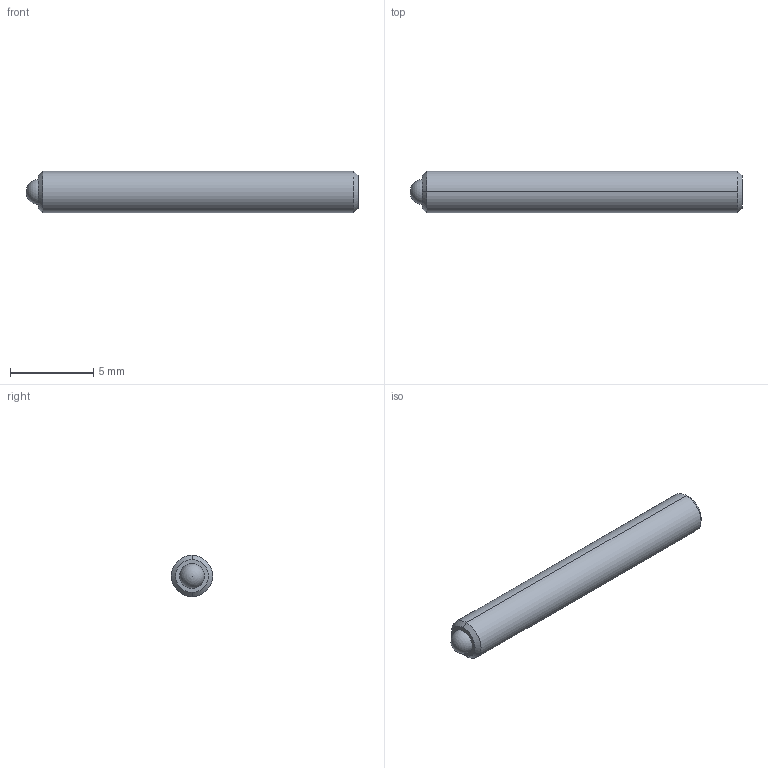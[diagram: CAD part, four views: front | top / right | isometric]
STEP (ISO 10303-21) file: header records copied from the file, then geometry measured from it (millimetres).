
FILE_DESCRIPTION (( 'STEP AP214' ), '1' );
FILE_NAME ('TS25-20-20.STEP', '2015-04-29T16:24:53', ( 'workpc' ), ( 'Microsoft' ), 'SwSTEP 2.0', 'SolidWorks 2013', '' );
FILE_SCHEMA (( 'AUTOMOTIVE_DESIGN' ));
Length unit declared in the file: millimetre
Products named in the file (1): TS25-20-20
Bounding box: 20 x 2.5 x 2.5 mm (x, y, z)
Volume: 90.5 mm3; surface area: 179.7 mm2
Topology: 2 solids, 2 shells, 20 faces, 45 edges, 29 vertices
Faces by surface type: plane 10, cylinder 4, cone 4, sphere 2
Entity records: 587 total; most frequent: DIRECTION 96, CARTESIAN_POINT 87, ORIENTED_EDGE 80, EDGE_CURVE 40, AXIS2_PLACEMENT_3D 35, VERTEX_POINT 26, VECTOR 26, LINE 26
